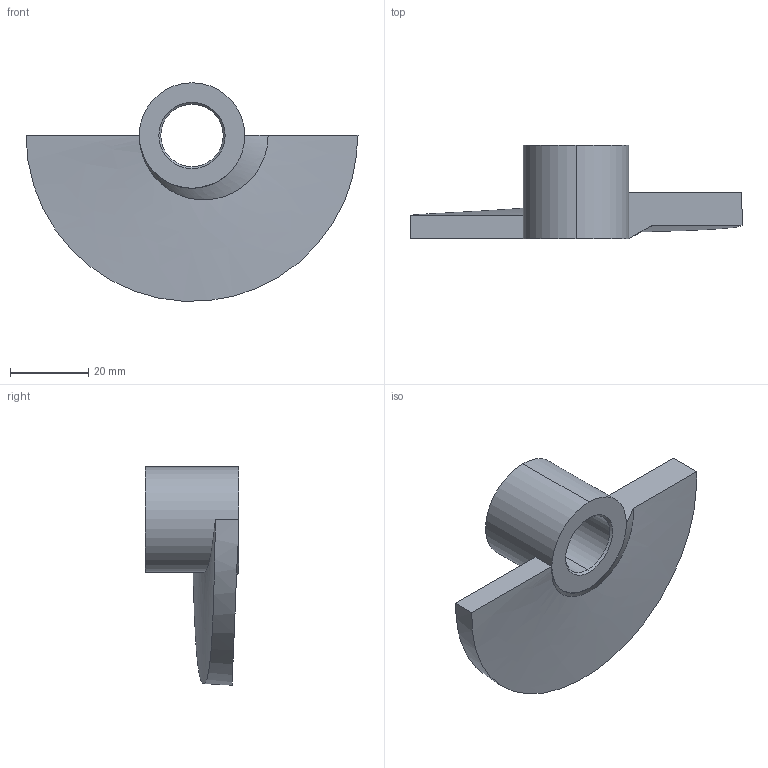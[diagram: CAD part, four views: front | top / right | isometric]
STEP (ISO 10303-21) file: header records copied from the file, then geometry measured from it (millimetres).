
FILE_DESCRIPTION (( 'STEP AP203' ), '1' );
FILE_NAME ('Wiberger-gn218_l_85x16.step', '2014-08-05T06:37:37', ( 'Magnus' ), ( 'Microsoft' ), 'SwSTEP 2.0', 'SolidWorks 2014', '' );
FILE_SCHEMA (( 'CONFIG_CONTROL_DESIGN' ));
Length unit declared in the file: millimetre
Products named in the file (1): Wiberger-gn218_l_85x16
Bounding box: 85 x 24 x 55.93 mm (x, y, z)
Volume: 27407 mm3; surface area: 10065.9 mm2
Topology: 1 solids, 1 shells, 24 faces, 53 edges, 30 vertices
Faces by surface type: cylinder 10, bspline 6, cone 4, plane 4
Entity records: 1509 total; most frequent: CARTESIAN_POINT 943, ORIENTED_EDGE 104, DIRECTION 92, EDGE_CURVE 52, AXIS2_PLACEMENT_3D 37, VERTEX_POINT 30, EDGE_LOOP 26, ADVANCED_FACE 24
